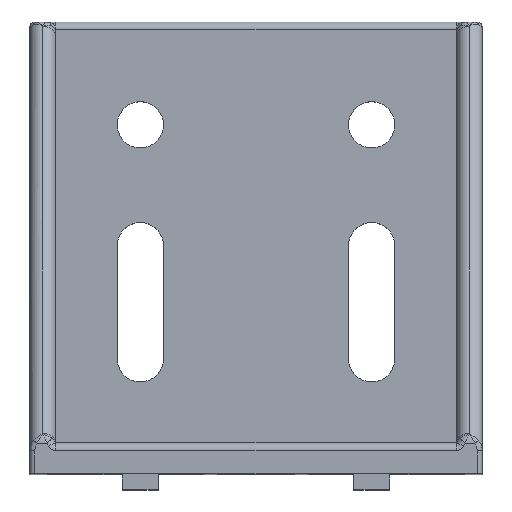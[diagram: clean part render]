
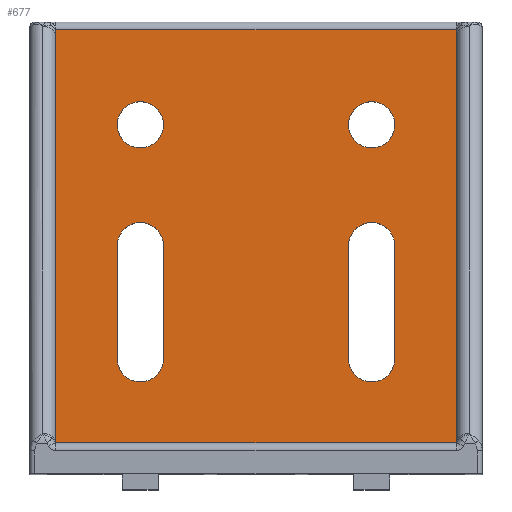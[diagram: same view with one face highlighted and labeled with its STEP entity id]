
A CAD part, top view. The second image highlights one B-rep face of the part: STEP entity #677.
In plain terms, the highlighted planar face has unit normal (0, 0, 1).
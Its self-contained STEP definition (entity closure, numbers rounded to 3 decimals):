
#32 = VECTOR ( 'NONE', #1062, 1000. ) ;
#114 = CARTESIAN_POINT ( 'NONE',  ( -18., 22.5, 6. ) ) ;
#136 = CARTESIAN_POINT ( 'NONE',  ( 38.9, 86.5, 6. ) ) ;
#154 = EDGE_LOOP ( 'NONE', ( #5088, #4159 ) ) ;
#159 = CARTESIAN_POINT ( 'NONE',  ( 27., 68., 6. ) ) ;
#217 = EDGE_CURVE ( 'NONE', #5059, #5308, #2068, .T. ) ;
#248 = EDGE_CURVE ( 'NONE', #5238, #5059, #5422, .T. ) ;
#252 = ORIENTED_EDGE ( 'NONE', *, *, #1666, .T. ) ;
#314 = CIRCLE ( 'NONE', #2507, 4.5 ) ;
#395 = FACE_OUTER_BOUND ( 'NONE', #932, .T. ) ;
#402 = DIRECTION ( 'NONE',  ( 1., 0., 0. ) ) ;
#529 = DIRECTION ( 'NONE',  ( 0., 0., 1. ) ) ;
#583 = CARTESIAN_POINT ( 'NONE',  ( 22.5, 68., 6. ) ) ;
#596 = ORIENTED_EDGE ( 'NONE', *, *, #5304, .T. ) ;
#664 = DIRECTION ( 'NONE',  ( 0., 1., 0. ) ) ;
#677 = ADVANCED_FACE ( 'NONE', ( #4221, #4078, #2866, #1782, #395 ), #2178, .F. ) ;
#709 = EDGE_CURVE ( 'NONE', #3927, #2029, #2712, .T. ) ;
#832 = DIRECTION ( 'NONE',  ( 0., 1., 0. ) ) ;
#836 = LINE ( 'NONE', #1077, #4983 ) ;
#838 = CARTESIAN_POINT ( 'NONE',  ( -22.5, 68., 6. ) ) ;
#846 = EDGE_CURVE ( 'NONE', #2029, #3927, #912, .T. ) ;
#869 = CARTESIAN_POINT ( 'NONE',  ( 39., 6.1, 6. ) ) ;
#870 = LINE ( 'NONE', #3681, #4382 ) ;
#912 = CIRCLE ( 'NONE', #1101, 4.5 ) ;
#930 = LINE ( 'NONE', #986, #1869 ) ;
#932 = EDGE_LOOP ( 'NONE', ( #252, #2264, #596, #5100 ) ) ;
#970 = CARTESIAN_POINT ( 'NONE',  ( -27., 22.5, 6. ) ) ;
#986 = CARTESIAN_POINT ( 'NONE',  ( 27., 22.5, 6. ) ) ;
#1044 = DIRECTION ( 'NONE',  ( 1., 0., 0. ) ) ;
#1062 = DIRECTION ( 'NONE',  ( -1., 0., 0. ) ) ;
#1077 = CARTESIAN_POINT ( 'NONE',  ( 18., 22.5, 6. ) ) ;
#1100 = EDGE_CURVE ( 'NONE', #1609, #4293, #2047, .T. ) ;
#1101 = AXIS2_PLACEMENT_3D ( 'NONE', #4452, #1713, #4900 ) ;
#1163 = CARTESIAN_POINT ( 'NONE',  ( 22.5, 22.5, 6. ) ) ;
#1229 = EDGE_CURVE ( 'NONE', #4142, #5238, #1330, .T. ) ;
#1268 = CIRCLE ( 'NONE', #2916, 4.5 ) ;
#1271 = CARTESIAN_POINT ( 'NONE',  ( 38.9, 6.1, 6. ) ) ;
#1277 = ORIENTED_EDGE ( 'NONE', *, *, #4574, .F. ) ;
#1292 = DIRECTION ( 'NONE',  ( 1., 0., 0. ) ) ;
#1321 = DIRECTION ( 'NONE',  ( 1., 0., 0. ) ) ;
#1330 = LINE ( 'NONE', #970, #3637 ) ;
#1388 = EDGE_LOOP ( 'NONE', ( #4826, #5894, #1749, #1277 ) ) ;
#1425 = LINE ( 'NONE', #1513, #32 ) ;
#1443 = DIRECTION ( 'NONE',  ( 0., 1., 0. ) ) ;
#1455 = EDGE_CURVE ( 'NONE', #2978, #4087, #2140, .T. ) ;
#1513 = CARTESIAN_POINT ( 'NONE',  ( 44., 86.5, 6. ) ) ;
#1585 = VERTEX_POINT ( 'NONE', #136 ) ;
#1609 = VERTEX_POINT ( 'NONE', #3866 ) ;
#1619 = DIRECTION ( 'NONE',  ( 1., 0., 0. ) ) ;
#1666 = EDGE_CURVE ( 'NONE', #4293, #1585, #3587, .T. ) ;
#1713 = DIRECTION ( 'NONE',  ( 0., 0., 1. ) ) ;
#1749 = ORIENTED_EDGE ( 'NONE', *, *, #1229, .F. ) ;
#1782 = FACE_BOUND ( 'NONE', #4023, .T. ) ;
#1791 = CARTESIAN_POINT ( 'NONE',  ( 22.5, 68., 6. ) ) ;
#1869 = VECTOR ( 'NONE', #1443, 1000. ) ;
#1914 = VECTOR ( 'NONE', #1321, 1000. ) ;
#1933 = VECTOR ( 'NONE', #832, 1000. ) ;
#2029 = VERTEX_POINT ( 'NONE', #4822 ) ;
#2047 = LINE ( 'NONE', #869, #1914 ) ;
#2068 = LINE ( 'NONE', #3127, #1933 ) ;
#2126 = EDGE_LOOP ( 'NONE', ( #4569, #2977, #2325, #4066 ) ) ;
#2140 = CIRCLE ( 'NONE', #5132, 4.5 ) ;
#2178 = PLANE ( 'NONE',  #3692 ) ;
#2209 = VECTOR ( 'NONE', #664, 1000. ) ;
#2237 = DIRECTION ( 'NONE',  ( 1., 0., 0. ) ) ;
#2263 = VERTEX_POINT ( 'NONE', #3036 ) ;
#2264 = ORIENTED_EDGE ( 'NONE', *, *, #3302, .T. ) ;
#2285 = DIRECTION ( 'NONE',  ( 0., 0., 1. ) ) ;
#2325 = ORIENTED_EDGE ( 'NONE', *, *, #2708, .F. ) ;
#2392 = VERTEX_POINT ( 'NONE', #4061 ) ;
#2446 = EDGE_CURVE ( 'NONE', #4905, #4756, #314, .T. ) ;
#2448 = AXIS2_PLACEMENT_3D ( 'NONE', #838, #4059, #1292 ) ;
#2507 = AXIS2_PLACEMENT_3D ( 'NONE', #5017, #2285, #5473 ) ;
#2648 = DIRECTION ( 'NONE',  ( 0., 0., -1. ) ) ;
#2708 = EDGE_CURVE ( 'NONE', #4756, #4620, #836, .T. ) ;
#2712 = CIRCLE ( 'NONE', #2448, 4.5 ) ;
#2782 = ORIENTED_EDGE ( 'NONE', *, *, #1455, .F. ) ;
#2836 = CARTESIAN_POINT ( 'NONE',  ( 27., 44.5, 6. ) ) ;
#2866 = FACE_BOUND ( 'NONE', #154, .T. ) ;
#2916 = AXIS2_PLACEMENT_3D ( 'NONE', #3285, #529, #3750 ) ;
#2917 = DIRECTION ( 'NONE',  ( 0., -1., 0. ) ) ;
#2960 = CIRCLE ( 'NONE', #4483, 4.5 ) ;
#2977 = ORIENTED_EDGE ( 'NONE', *, *, #5589, .F. ) ;
#2978 = VERTEX_POINT ( 'NONE', #159 ) ;
#2990 = AXIS2_PLACEMENT_3D ( 'NONE', #583, #3813, #1044 ) ;
#3036 = CARTESIAN_POINT ( 'NONE',  ( 27., 22.5, 6. ) ) ;
#3094 = CARTESIAN_POINT ( 'NONE',  ( 44., 6., 6. ) ) ;
#3126 = CARTESIAN_POINT ( 'NONE',  ( 18., 44.5, 6. ) ) ;
#3127 = CARTESIAN_POINT ( 'NONE',  ( -18., 22.5, 6. ) ) ;
#3169 = DIRECTION ( 'NONE',  ( 0., 0., 1. ) ) ;
#3218 = EDGE_CURVE ( 'NONE', #2263, #4905, #930, .T. ) ;
#3285 = CARTESIAN_POINT ( 'NONE',  ( -22.5, 44.5, 6. ) ) ;
#3302 = EDGE_CURVE ( 'NONE', #1585, #2392, #1425, .T. ) ;
#3578 = CARTESIAN_POINT ( 'NONE',  ( -18., 68., 6. ) ) ;
#3587 = LINE ( 'NONE', #5690, #2209 ) ;
#3637 = VECTOR ( 'NONE', #5058, 1000. ) ;
#3681 = CARTESIAN_POINT ( 'NONE',  ( -38.9, 6., 6. ) ) ;
#3692 = AXIS2_PLACEMENT_3D ( 'NONE', #3094, #2648, #5824 ) ;
#3750 = DIRECTION ( 'NONE',  ( 1., 0., 0. ) ) ;
#3813 = DIRECTION ( 'NONE',  ( 0., 0., 1. ) ) ;
#3866 = CARTESIAN_POINT ( 'NONE',  ( -38.9, 6.1, 6. ) ) ;
#3927 = VERTEX_POINT ( 'NONE', #3578 ) ;
#3967 = CIRCLE ( 'NONE', #2990, 4.5 ) ;
#4023 = EDGE_LOOP ( 'NONE', ( #2782, #4039 ) ) ;
#4039 = ORIENTED_EDGE ( 'NONE', *, *, #4981, .F. ) ;
#4059 = DIRECTION ( 'NONE',  ( 0., 0., 1. ) ) ;
#4061 = CARTESIAN_POINT ( 'NONE',  ( -38.9, 86.5, 6. ) ) ;
#4066 = ORIENTED_EDGE ( 'NONE', *, *, #2446, .F. ) ;
#4078 = FACE_BOUND ( 'NONE', #2126, .T. ) ;
#4087 = VERTEX_POINT ( 'NONE', #4110 ) ;
#4110 = CARTESIAN_POINT ( 'NONE',  ( 18., 68., 6. ) ) ;
#4142 = VERTEX_POINT ( 'NONE', #5164 ) ;
#4154 = DIRECTION ( 'NONE',  ( 0., -1., 0. ) ) ;
#4159 = ORIENTED_EDGE ( 'NONE', *, *, #846, .F. ) ;
#4221 = FACE_BOUND ( 'NONE', #1388, .T. ) ;
#4236 = CARTESIAN_POINT ( 'NONE',  ( 18., 22.5, 6. ) ) ;
#4293 = VERTEX_POINT ( 'NONE', #1271 ) ;
#4372 = DIRECTION ( 'NONE',  ( 0., 0., 1. ) ) ;
#4382 = VECTOR ( 'NONE', #4154, 1000. ) ;
#4452 = CARTESIAN_POINT ( 'NONE',  ( -22.5, 68., 6. ) ) ;
#4483 = AXIS2_PLACEMENT_3D ( 'NONE', #1163, #4372, #1619 ) ;
#4569 = ORIENTED_EDGE ( 'NONE', *, *, #3218, .F. ) ;
#4574 = EDGE_CURVE ( 'NONE', #5308, #4142, #1268, .T. ) ;
#4594 = CARTESIAN_POINT ( 'NONE',  ( -18., 44.5, 6. ) ) ;
#4620 = VERTEX_POINT ( 'NONE', #4236 ) ;
#4756 = VERTEX_POINT ( 'NONE', #3126 ) ;
#4822 = CARTESIAN_POINT ( 'NONE',  ( -27., 68., 6. ) ) ;
#4826 = ORIENTED_EDGE ( 'NONE', *, *, #217, .F. ) ;
#4900 = DIRECTION ( 'NONE',  ( 1., 0., 0. ) ) ;
#4905 = VERTEX_POINT ( 'NONE', #2836 ) ;
#4969 = DIRECTION ( 'NONE',  ( 0., 0., 1. ) ) ;
#4981 = EDGE_CURVE ( 'NONE', #4087, #2978, #3967, .T. ) ;
#4983 = VECTOR ( 'NONE', #2917, 1000. ) ;
#5017 = CARTESIAN_POINT ( 'NONE',  ( 22.5, 44.5, 6. ) ) ;
#5058 = DIRECTION ( 'NONE',  ( 0., -1., 0. ) ) ;
#5059 = VERTEX_POINT ( 'NONE', #114 ) ;
#5088 = ORIENTED_EDGE ( 'NONE', *, *, #709, .F. ) ;
#5100 = ORIENTED_EDGE ( 'NONE', *, *, #1100, .T. ) ;
#5132 = AXIS2_PLACEMENT_3D ( 'NONE', #1791, #4969, #2237 ) ;
#5164 = CARTESIAN_POINT ( 'NONE',  ( -27., 44.5, 6. ) ) ;
#5238 = VERTEX_POINT ( 'NONE', #5873 ) ;
#5304 = EDGE_CURVE ( 'NONE', #2392, #1609, #870, .T. ) ;
#5308 = VERTEX_POINT ( 'NONE', #4594 ) ;
#5422 = CIRCLE ( 'NONE', #5427, 4.5 ) ;
#5427 = AXIS2_PLACEMENT_3D ( 'NONE', #5878, #3169, #402 ) ;
#5473 = DIRECTION ( 'NONE',  ( 1., 0., 0. ) ) ;
#5589 = EDGE_CURVE ( 'NONE', #4620, #2263, #2960, .T. ) ;
#5690 = CARTESIAN_POINT ( 'NONE',  ( 38.9, 88., 6. ) ) ;
#5824 = DIRECTION ( 'NONE',  ( 0., 1., 0. ) ) ;
#5873 = CARTESIAN_POINT ( 'NONE',  ( -27., 22.5, 6. ) ) ;
#5878 = CARTESIAN_POINT ( 'NONE',  ( -22.5, 22.5, 6. ) ) ;
#5894 = ORIENTED_EDGE ( 'NONE', *, *, #248, .F. ) ;
